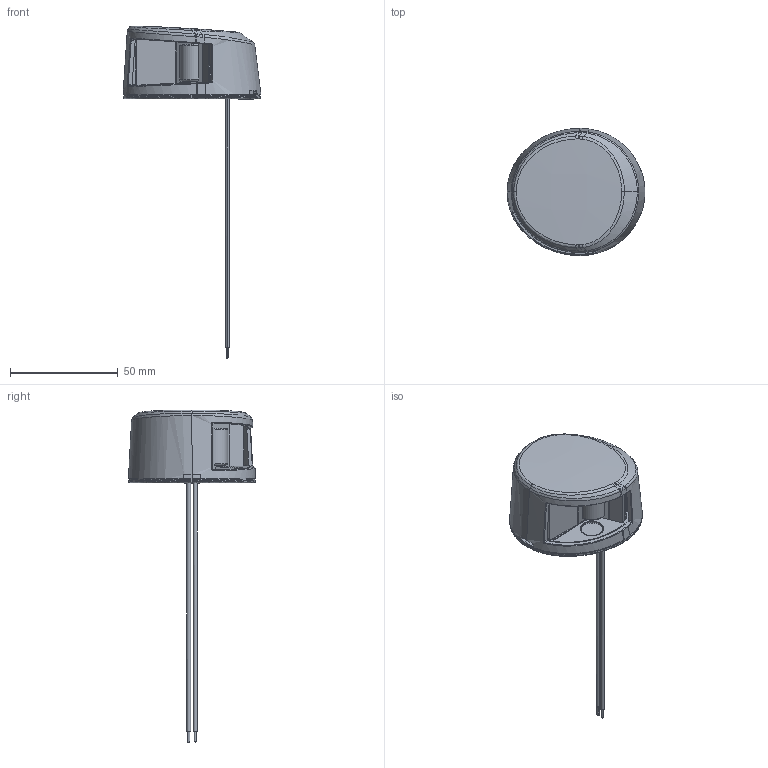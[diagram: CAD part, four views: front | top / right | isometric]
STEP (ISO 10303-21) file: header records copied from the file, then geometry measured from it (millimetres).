
FILE_DESCRIPTION(('CATIA V5 STEP Exchange','CAx-IF Rec.Pracs.--- Model Styling and Organization---1.5--- 2016-08-15','CAx-IF Rec.Pracs.---Supplemental Geometry---1.0---2011-11-01','CAx-IF Rec.Pracs.---Representation and Presentation of Product Manufacturing Information (PMI)---2.3---2014-10-13','CAx-IF Rec.Pracs.--- Composite Materials ---1.1---2010-07-15'),'2;1');
FILE_NAME('E:\tmp\ddx\2718943\01791000_CATPart_20260922 10004049148_D10_001_SIM_PORT_LAMP_DECKMOUNT_GEN_II.stp','2026-09-22T02:07:52+00:00',('none'),('none'),'CATIA Version 5-6 Release 2024 SP3 HF10','CATIA V5 STEP AP214 Edition 3 v3','none');
FILE_SCHEMA(('AUTOMOTIVE_DESIGN { 1 0 10303 214 3 1 1 1 }'));
Products named in the file (1): 10004049148_D10_001
Bounding box: 63.97 x 59 x 154 mm (x, y, z)
Volume: 43795.7 mm3; surface area: 33631.8 mm2
Topology: 5 solids, 10 shells, 1112 faces, 2834 edges, 1754 vertices
Faces by surface type: bspline 460, plane 230, extrusion 168, cylinder 151, cone 50, torus 34, sphere 19
Entity records: 63266 total; most frequent: CARTESIAN_POINT 42193, ORIENTED_EDGE 5626, EDGE_CURVE 2813, B_SPLINE_CURVE_WITH_KNOTS 2078, DIRECTION 1893, VERTEX_POINT 1754, EDGE_LOOP 1161, ADVANCED_FACE 1112
